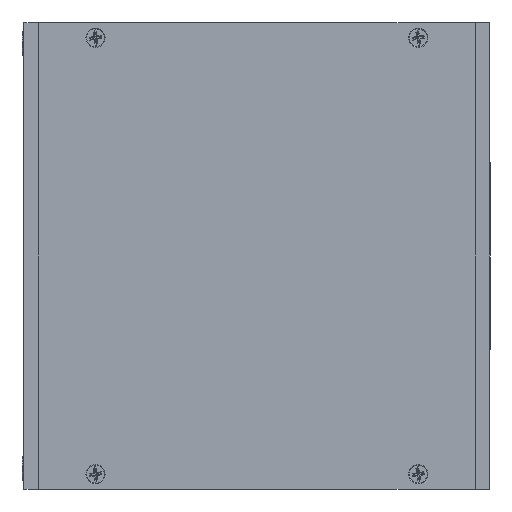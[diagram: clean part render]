
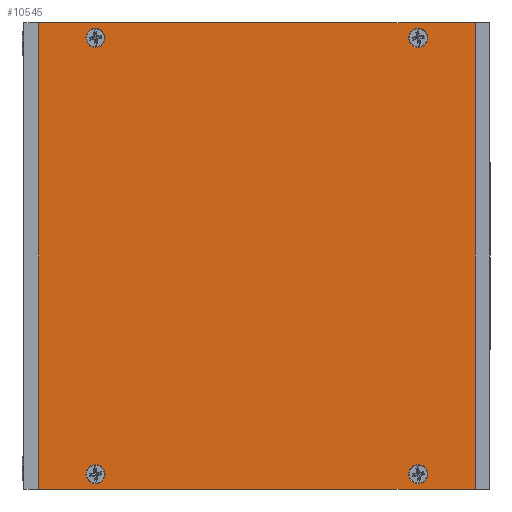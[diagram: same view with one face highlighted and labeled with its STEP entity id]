
A CAD part, left-side view. The second image highlights one B-rep face of the part: STEP entity #10545.
In plain terms, the highlighted planar face has unit normal (-1, 0, 0) as drawn and (0, 0, 1) by its records, which use the part's own axes.
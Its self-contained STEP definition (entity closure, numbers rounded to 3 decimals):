
#11 = DIRECTION ( 'NONE',  ( 0., 0., 1. ) ) ;
#233 = VERTEX_POINT ( 'NONE', #10878 ) ;
#253 = CARTESIAN_POINT ( 'NONE',  ( 39., 36.5, 1. ) ) ;
#467 = CARTESIAN_POINT ( 'NONE',  ( 34.9, -27., 1. ) ) ;
#547 = FACE_BOUND ( 'NONE', #1423, .T. ) ;
#669 = AXIS2_PLACEMENT_3D ( 'NONE', #9265, #11, #10410 ) ;
#746 = DIRECTION ( 'NONE',  ( 1., 0., 0. ) ) ;
#750 = AXIS2_PLACEMENT_3D ( 'NONE', #9533, #8570, #7494 ) ;
#755 = DIRECTION ( 'NONE',  ( 1., 0., 0. ) ) ;
#1167 = ORIENTED_EDGE ( 'NONE', *, *, #9999, .T. ) ;
#1185 = CARTESIAN_POINT ( 'NONE',  ( 36.5, -27., 1. ) ) ;
#1287 = VERTEX_POINT ( 'NONE', #9953 ) ;
#1353 = EDGE_CURVE ( 'NONE', #3862, #8545, #10488, .T. ) ;
#1423 = EDGE_LOOP ( 'NONE', ( #9386, #12185 ) ) ;
#1628 = FACE_BOUND ( 'NONE', #2313, .T. ) ;
#1762 = EDGE_CURVE ( 'NONE', #9268, #8556, #6011, .T. ) ;
#1854 = ORIENTED_EDGE ( 'NONE', *, *, #10062, .T. ) ;
#1928 = AXIS2_PLACEMENT_3D ( 'NONE', #12501, #11557, #5264 ) ;
#1955 = CARTESIAN_POINT ( 'NONE',  ( -38.1, 27., 1. ) ) ;
#2011 = DIRECTION ( 'NONE',  ( 0., 0., 1. ) ) ;
#2120 = ORIENTED_EDGE ( 'NONE', *, *, #3638, .T. ) ;
#2213 = CARTESIAN_POINT ( 'NONE',  ( -39., 36.5, 1. ) ) ;
#2293 = EDGE_CURVE ( 'NONE', #8545, #3862, #10182, .T. ) ;
#2313 = EDGE_LOOP ( 'NONE', ( #2884, #9285 ) ) ;
#2344 = CARTESIAN_POINT ( 'NONE',  ( -39., 36.5, 1. ) ) ;
#2346 = ORIENTED_EDGE ( 'NONE', *, *, #6679, .F. ) ;
#2374 = AXIS2_PLACEMENT_3D ( 'NONE', #10051, #9981, #746 ) ;
#2682 = CARTESIAN_POINT ( 'NONE',  ( -36.5, -27., 1. ) ) ;
#2808 = VERTEX_POINT ( 'NONE', #2946 ) ;
#2859 = DIRECTION ( 'NONE',  ( 1., 0., 0. ) ) ;
#2884 = ORIENTED_EDGE ( 'NONE', *, *, #6347, .F. ) ;
#2928 = DIRECTION ( 'NONE',  ( 1., 0., 0. ) ) ;
#2946 = CARTESIAN_POINT ( 'NONE',  ( 39., 36.5, 1. ) ) ;
#2970 = CARTESIAN_POINT ( 'NONE',  ( -34.9, 27., 1. ) ) ;
#3103 = VECTOR ( 'NONE', #2928, 1000. ) ;
#3118 = CIRCLE ( 'NONE', #750, 1.6 ) ;
#3154 = EDGE_CURVE ( 'NONE', #1287, #10001, #9124, .T. ) ;
#3208 = DIRECTION ( 'NONE',  ( 1., 0., 0. ) ) ;
#3295 = AXIS2_PLACEMENT_3D ( 'NONE', #8788, #6905, #2859 ) ;
#3627 = CIRCLE ( 'NONE', #1928, 1.6 ) ;
#3638 = EDGE_CURVE ( 'NONE', #6070, #9268, #4327, .T. ) ;
#3862 = VERTEX_POINT ( 'NONE', #11434 ) ;
#4033 = DIRECTION ( 'NONE',  ( 1., 0., 0. ) ) ;
#4099 = LINE ( 'NONE', #253, #12134 ) ;
#4295 = EDGE_CURVE ( 'NONE', #10001, #1287, #9733, .T. ) ;
#4327 = LINE ( 'NONE', #8452, #11889 ) ;
#4361 = DIRECTION ( 'NONE',  ( 0., 1., 0. ) ) ;
#4825 = ORIENTED_EDGE ( 'NONE', *, *, #4295, .F. ) ;
#4853 = FACE_OUTER_BOUND ( 'NONE', #7803, .T. ) ;
#5090 = ORIENTED_EDGE ( 'NONE', *, *, #1762, .T. ) ;
#5264 = DIRECTION ( 'NONE',  ( 1., 0., 0. ) ) ;
#5339 = AXIS2_PLACEMENT_3D ( 'NONE', #1185, #2011, #4033 ) ;
#5659 = FACE_BOUND ( 'NONE', #8378, .T. ) ;
#5776 = DIRECTION ( 'NONE',  ( 0., 0., 1. ) ) ;
#5863 = EDGE_CURVE ( 'NONE', #11392, #12670, #6245, .T. ) ;
#6011 = LINE ( 'NONE', #10149, #3103 ) ;
#6070 = VERTEX_POINT ( 'NONE', #2344 ) ;
#6160 = CARTESIAN_POINT ( 'NONE',  ( -39., -36.5, 1. ) ) ;
#6245 = CIRCLE ( 'NONE', #2374, 1.6 ) ;
#6310 = DIRECTION ( 'NONE',  ( -1., 0., 0. ) ) ;
#6347 = EDGE_CURVE ( 'NONE', #233, #9701, #9455, .T. ) ;
#6378 = LINE ( 'NONE', #2213, #11720 ) ;
#6482 = AXIS2_PLACEMENT_3D ( 'NONE', #2682, #5776, #9902 ) ;
#6540 = DIRECTION ( 'NONE',  ( 0., -1., 0. ) ) ;
#6679 = EDGE_CURVE ( 'NONE', #12670, #11392, #3627, .T. ) ;
#6886 = PLANE ( 'NONE',  #10507 ) ;
#6905 = DIRECTION ( 'NONE',  ( 0., 0., 1. ) ) ;
#7197 = ORIENTED_EDGE ( 'NONE', *, *, #3154, .F. ) ;
#7261 = DIRECTION ( 'NONE',  ( 0., 0., 1. ) ) ;
#7492 = CARTESIAN_POINT ( 'NONE',  ( 39., -36.5, 1. ) ) ;
#7494 = DIRECTION ( 'NONE',  ( 1., 0., 0. ) ) ;
#7803 = EDGE_LOOP ( 'NONE', ( #1854, #1167, #2120, #5090 ) ) ;
#8378 = EDGE_LOOP ( 'NONE', ( #7197, #4825 ) ) ;
#8452 = CARTESIAN_POINT ( 'NONE',  ( -39., 36.5, 1. ) ) ;
#8545 = VERTEX_POINT ( 'NONE', #10539 ) ;
#8556 = VERTEX_POINT ( 'NONE', #7492 ) ;
#8570 = DIRECTION ( 'NONE',  ( 0., 0., 1. ) ) ;
#8788 = CARTESIAN_POINT ( 'NONE',  ( 36.5, 27., 1. ) ) ;
#9124 = CIRCLE ( 'NONE', #3295, 1.6 ) ;
#9206 = AXIS2_PLACEMENT_3D ( 'NONE', #11256, #7261, #3208 ) ;
#9265 = CARTESIAN_POINT ( 'NONE',  ( 36.5, 27., 1. ) ) ;
#9268 = VERTEX_POINT ( 'NONE', #6160 ) ;
#9285 = ORIENTED_EDGE ( 'NONE', *, *, #12324, .F. ) ;
#9331 = ORIENTED_EDGE ( 'NONE', *, *, #5863, .F. ) ;
#9386 = ORIENTED_EDGE ( 'NONE', *, *, #2293, .F. ) ;
#9455 = CIRCLE ( 'NONE', #5339, 1.6 ) ;
#9533 = CARTESIAN_POINT ( 'NONE',  ( 36.5, -27., 1. ) ) ;
#9701 = VERTEX_POINT ( 'NONE', #467 ) ;
#9733 = CIRCLE ( 'NONE', #669, 1.6 ) ;
#9801 = FACE_BOUND ( 'NONE', #10241, .T. ) ;
#9902 = DIRECTION ( 'NONE',  ( 1., 0., 0. ) ) ;
#9953 = CARTESIAN_POINT ( 'NONE',  ( 38.1, 27., 1. ) ) ;
#9981 = DIRECTION ( 'NONE',  ( 0., 0., 1. ) ) ;
#9999 = EDGE_CURVE ( 'NONE', #2808, #6070, #6378, .T. ) ;
#10001 = VERTEX_POINT ( 'NONE', #10323 ) ;
#10051 = CARTESIAN_POINT ( 'NONE',  ( -36.5, 27., 1. ) ) ;
#10062 = EDGE_CURVE ( 'NONE', #8556, #2808, #4099, .T. ) ;
#10149 = CARTESIAN_POINT ( 'NONE',  ( -39., -36.5, 1. ) ) ;
#10182 = CIRCLE ( 'NONE', #6482, 1.6 ) ;
#10241 = EDGE_LOOP ( 'NONE', ( #9331, #2346 ) ) ;
#10323 = CARTESIAN_POINT ( 'NONE',  ( 34.9, 27., 1. ) ) ;
#10410 = DIRECTION ( 'NONE',  ( 1., 0., 0. ) ) ;
#10488 = CIRCLE ( 'NONE', #9206, 1.6 ) ;
#10507 = AXIS2_PLACEMENT_3D ( 'NONE', #11016, #11952, #755 ) ;
#10539 = CARTESIAN_POINT ( 'NONE',  ( -34.9, -27., 1. ) ) ;
#10545 = ADVANCED_FACE ( 'NONE', ( #9801, #5659, #1628, #547, #4853 ), #6886, .T. ) ;
#10878 = CARTESIAN_POINT ( 'NONE',  ( 38.1, -27., 1. ) ) ;
#11016 = CARTESIAN_POINT ( 'NONE',  ( 0., 0., 1. ) ) ;
#11256 = CARTESIAN_POINT ( 'NONE',  ( -36.5, -27., 1. ) ) ;
#11392 = VERTEX_POINT ( 'NONE', #2970 ) ;
#11434 = CARTESIAN_POINT ( 'NONE',  ( -38.1, -27., 1. ) ) ;
#11557 = DIRECTION ( 'NONE',  ( 0., 0., 1. ) ) ;
#11720 = VECTOR ( 'NONE', #6310, 1000. ) ;
#11889 = VECTOR ( 'NONE', #6540, 1000. ) ;
#11952 = DIRECTION ( 'NONE',  ( 0., 0., 1. ) ) ;
#12134 = VECTOR ( 'NONE', #4361, 1000. ) ;
#12185 = ORIENTED_EDGE ( 'NONE', *, *, #1353, .F. ) ;
#12324 = EDGE_CURVE ( 'NONE', #9701, #233, #3118, .T. ) ;
#12501 = CARTESIAN_POINT ( 'NONE',  ( -36.5, 27., 1. ) ) ;
#12670 = VERTEX_POINT ( 'NONE', #1955 ) ;
